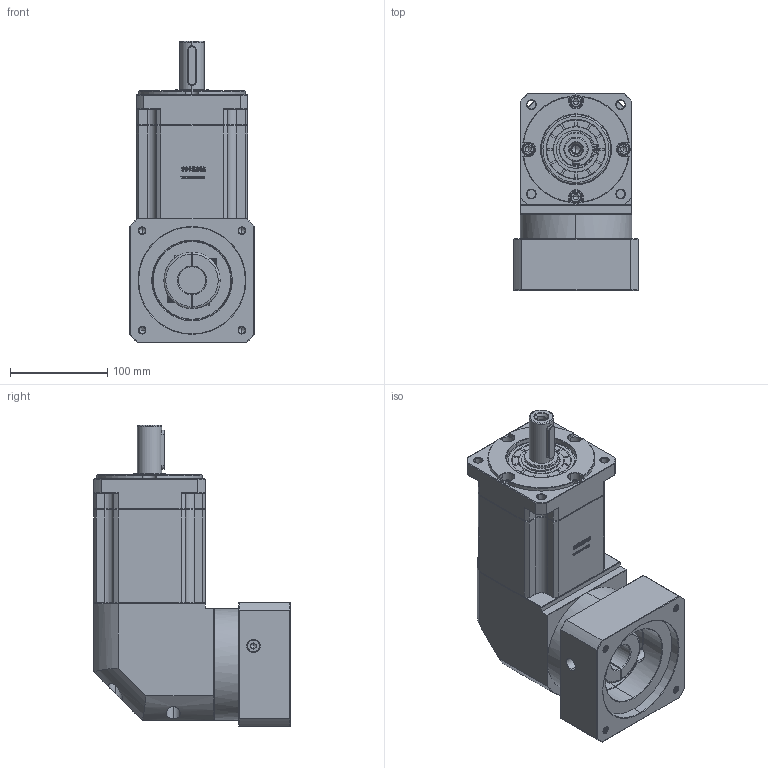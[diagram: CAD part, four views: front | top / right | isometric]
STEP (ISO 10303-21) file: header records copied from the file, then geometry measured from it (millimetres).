
FILE_DESCRIPTION (( 'STEP AP214' ), '1' );
FILE_NAME ('ZBR115A-D25-L3-28-110-145-M8.step', '2023-03-03T04:59:28', ( '' ), ( 'Microsoft' ), 'SwSTEP 2.0', 'SolidWorks 2016', '' );
FILE_SCHEMA (( 'AUTOMOTIVE_DESIGN' ));
Length unit declared in the file: millimetre
Products named in the file (1): ZBR115A-D25-L3-28-110-145-M8
Bounding box: 128 x 202.4 x 310 mm (x, y, z)
Volume: 3805874.3 mm3; surface area: 285729.8 mm2
Topology: 6 solids, 6 shells, 2983 faces, 7913 edges, 5073 vertices
Faces by surface type: plane 1560, bspline 607, cylinder 439, cone 369, torus 8
Entity records: 161756 total; most frequent: CARTESIAN_POINT 59796, ORIENTED_EDGE 15766, DIRECTION 11926, EDGE_CURVE 7883, VECTOR 5310, LINE 5310, VERTEX_POINT 5073, AXIS2_PLACEMENT_3D 3308
